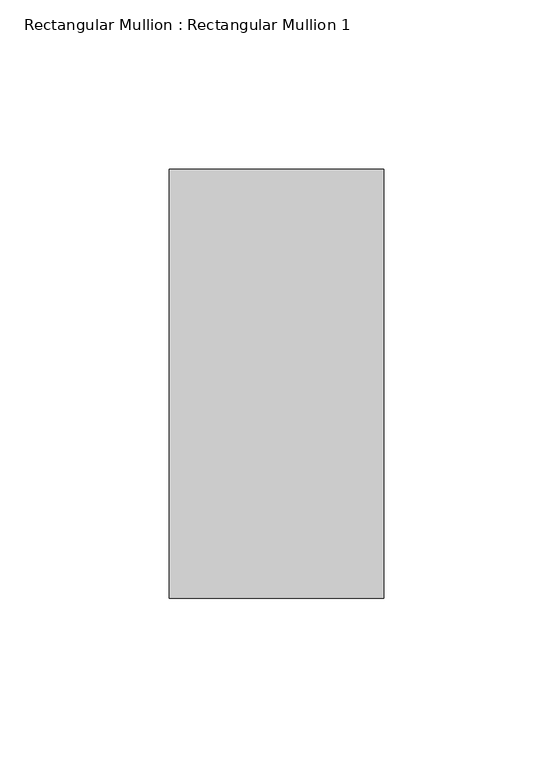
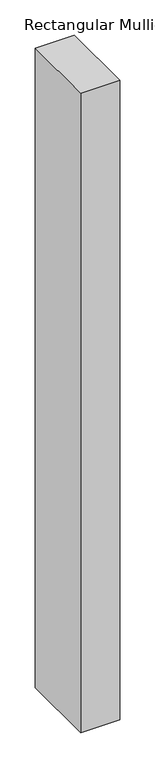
"""IFC4 building model written with IfcOpenShell, lengths in millimetres: member geometry, Rectangular Mullion : Rectangular Mullion 1."""

import ifcopenshell
import ifcopenshell.guid

model = None  # the IFC model being written
_history = None  # IfcOwnerHistory: only IFC2X3 demands one
_inside = {}  # id of a spatial element -> (the spatial element, [elements in it])
_under = {}  # id of a project, library or spatial element -> (it, [spatial elements below it])
_declared = {}  # id of a project -> (the project, [libraries it declares])
_typed = {}  # id of a type object -> (the type object, [elements of that type])
_made_of = {}  # id of a material, layer set ... -> (it, [elements and type objects made of it])


def new_model(schema):
    """Start an empty IFC model of exactly this schema.

    Asked for "IFC4X3", IfcOpenShell would pick the latest addendum, in which some entities
    have other attributes; the version numbers below select the first issue.
    IFC2X3 requires an IfcOwnerHistory on every rooted entity: one is made here for all.
    """
    global model, _history
    if schema == "IFC4X3":
        model = ifcopenshell.file(schema_version=(4, 3, 0, 0))
    else:
        model = ifcopenshell.file(schema=schema)
    _inside.clear()
    _under.clear()
    _declared.clear()
    _typed.clear()
    _made_of.clear()
    _history = None
    if model.schema == "IFC2X3":
        org = make("IfcOrganization", Name="unknown")
        user = make(
            "IfcPersonAndOrganization",
            ThePerson=make("IfcPerson", FamilyName="unknown"),
            TheOrganization=org,
        )
        app = make(
            "IfcApplication",
            ApplicationDeveloper=org,
            Version="unknown",
            ApplicationFullName="unknown",
            ApplicationIdentifier="unknown",
        )
        _history = make(
            "IfcOwnerHistory",
            OwningUser=user,
            OwningApplication=app,
            ChangeAction="ADDED",
            CreationDate=0,
        )
    return model


def make(cls, **values):
    """One entity of the class cls with the attributes given. An attribute that is None is left unset."""
    return model.create_entity(
        cls, **{name: value for name, value in values.items() if value is not None}
    )


def rooted(cls, **values):
    """An entity with a GlobalId (a new one), such as an element, a storey or a relation."""
    return make(cls, GlobalId=ifcopenshell.guid.new(), OwnerHistory=_history, **values)


def si_unit(unit_type, name, prefix=None):
    """IfcSIUnit, for example si_unit("LENGTHUNIT", "METRE", prefix="MILLI")."""
    return make("IfcSIUnit", UnitType=unit_type, Prefix=prefix, Name=name)


def assignment(units):
    """IfcUnitAssignment: the units of a project."""
    return None if units is None else make("IfcUnitAssignment", Units=units)


def point(xyz):
    """IfcCartesianPoint."""
    return None if xyz is None else make("IfcCartesianPoint", Coordinates=xyz)


def direction(xyz):
    """IfcDirection."""
    return None if xyz is None else make("IfcDirection", DirectionRatios=xyz)


def frame(location, z_axis=None, x_axis=None):
    """IfcAxis2Placement3D, a coordinate frame: its origin and axes. An axis left out is left unset."""
    return make(
        "IfcAxis2Placement3D",
        Location=point(location),
        Axis=direction(z_axis),
        RefDirection=direction(x_axis),
    )


def origin():
    """The frame at (0, 0, 0) with its axes left unset."""
    return frame((0.0, 0.0, 0.0))


def place(relative_to, where):
    """IfcLocalPlacement: puts the frame where relative to a parent placement (None: the world)."""
    return make(
        "IfcLocalPlacement", PlacementRelTo=relative_to, RelativePlacement=where
    )


def context(
    kind, dimensions, precision=None, world=None, true_north=None, identifier=None
):
    """IfcGeometricRepresentationContext, for example the 3D "Model" context."""
    return make(
        "IfcGeometricRepresentationContext",
        ContextIdentifier=identifier,
        ContextType=kind,
        CoordinateSpaceDimension=dimensions,
        Precision=precision,
        WorldCoordinateSystem=world,
        TrueNorth=true_north,
    )


def project(units=None, contexts=None):
    """IfcProject with its units and contexts."""
    return rooted(
        "IfcProject",
        Name="project",
        RepresentationContexts=contexts,
        UnitsInContext=assignment(units),
    )


def spatial(cls, under=None, at=None, **own):
    """A site, building, storey or space (cls), placed at a placement, below another one or the project."""
    s = rooted(cls, ObjectPlacement=at, **own)
    if under is not None:
        _under.setdefault(under.id(), (under, []))[1].append(s)
    return s


def polyline(points):
    """IfcPolyline through the points."""
    return make("IfcPolyline", Points=[point(p) for p in points])


def outline(outer, holes=None, kind="AREA"):
    """IfcArbitraryClosedProfileDef: a profile drawn as a closed curve; with holes, ...WithVoids."""
    if holes is None:
        return make("IfcArbitraryClosedProfileDef", ProfileType=kind, OuterCurve=outer)
    return make(
        "IfcArbitraryProfileDefWithVoids",
        ProfileType=kind,
        OuterCurve=outer,
        InnerCurves=holes,
    )


def extrude(swept, where, along, depth):
    """IfcExtrudedAreaSolid: the profile swept, set in the frame where, extruded along a direction by depth."""
    return make(
        "IfcExtrudedAreaSolid",
        SweptArea=swept,
        Position=where,
        ExtrudedDirection=direction(along),
        Depth=depth,
    )


def shape(context_of_items, identifier, shape_type, items):
    """IfcShapeRepresentation: the items that make up one representation, for example the "Body"."""
    return make(
        "IfcShapeRepresentation",
        ContextOfItems=context_of_items,
        RepresentationIdentifier=identifier,
        RepresentationType=shape_type,
        Items=items,
    )


def source(mapping_origin, context_of_items, identifier, shape_type, items):
    """IfcRepresentationMap: a shape defined once, which mapped items show again and again."""
    return make(
        "IfcRepresentationMap",
        MappingOrigin=mapping_origin,
        MappedRepresentation=shape(context_of_items, identifier, shape_type, items),
    )


def transform(
    local_origin,
    x_axis=None,
    y_axis=None,
    z_axis=None,
    scale=None,
    scale2=None,
    scale3=None,
    uniform=True,
):
    """IfcCartesianTransformationOperator3D, or its non-uniform kind. x_axis, y_axis, z_axis: its Axis1, 2, 3."""
    if uniform:
        return make(
            "IfcCartesianTransformationOperator3D",
            Axis1=direction(x_axis),
            Axis2=direction(y_axis),
            LocalOrigin=point(local_origin),
            Scale=scale,
            Axis3=direction(z_axis),
        )
    return make(
        "IfcCartesianTransformationOperator3DnonUniform",
        Axis1=direction(x_axis),
        Axis2=direction(y_axis),
        LocalOrigin=point(local_origin),
        Scale=scale,
        Axis3=direction(z_axis),
        Scale2=scale2,
        Scale3=scale3,
    )


def mapped(mapping_source, mapping_target):
    """IfcMappedItem: shows the shape of a source again, moved by a transform."""
    return make(
        "IfcMappedItem", MappingSource=mapping_source, MappingTarget=mapping_target
    )


def made_of(thing, what):
    """Note that an element or type object is made of a material, layer set ...; save() writes the relation."""
    if what is not None:
        _made_of.setdefault(what.id(), (what, []))[1].append(thing)
    return thing


def element(
    cls,
    number,
    at=None,
    inside=None,
    cuts=None,
    type_object=None,
    material=None,
    context=None,
    identifier="Body",
    shape_type=None,
    held_by="IfcProductDefinitionShape",
    body=None,
    shapes=None,
    **own,
):
    """One element of the class cls, such as IfcWall. Its Tag is "e" and its number.

    at: its placement. inside: the storey or other place that contains it. cuts: it is an
    opening in that element (IfcRelVoidsElement). A single representation is given by context,
    identifier, shape_type and body (its items); several are given by shapes. held_by: the class
    of the entity that holds the representations. save() writes the other relations.
    """
    e = rooted(cls, Tag="e%d" % number, ObjectPlacement=at, **own)
    if body is not None:
        shapes = [shape(context, identifier, shape_type, body)]
    if shapes is not None:
        e.Representation = make(held_by, Representations=shapes)
    if inside is not None:
        _inside.setdefault(inside.id(), (inside, []))[1].append(e)
    if cuts is not None:
        rooted(
            "IfcRelVoidsElement", RelatingBuildingElement=cuts, RelatedOpeningElement=e
        )
    if type_object is not None:
        _typed.setdefault(type_object.id(), (type_object, []))[1].append(e)
    return made_of(e, material)


def aggregate(whole, parts):
    """IfcRelAggregates: a whole, such as a stair, and the parts it consists of."""
    return rooted("IfcRelAggregates", RelatingObject=whole, RelatedObjects=parts)


def save(model, path):
    """Write the relations noted so far, then the file.

    IfcRelAggregates (storeys below a building ...), IfcRelContainedInSpatialStructure (elements
    in a storey), IfcRelDefinesByType, IfcRelAssociatesMaterial and IfcRelDeclares: one each for
    every whole, place, type object, material and project.
    """
    for whole, parts in _under.values():
        aggregate(whole, parts)
    for where, things in _inside.values():
        rooted(
            "IfcRelContainedInSpatialStructure",
            RelatedElements=things,
            RelatingStructure=where,
        )
    for kind, things in _typed.values():
        rooted("IfcRelDefinesByType", RelatedObjects=things, RelatingType=kind)
    for what, things in _made_of.values():
        rooted("IfcRelAssociatesMaterial", RelatedObjects=things, RelatingMaterial=what)
    for by, libraries in _declared.values():
        rooted("IfcRelDeclares", RelatingContext=by, RelatedDefinitions=libraries)
    model.write(path)


def rectangular_mullion_rectangular_mullion_1_cb608bd8(model_context):
    return source(origin(), model_context, "Body", "SweptSolid", [
        extrude(outline(polyline([(31.75, 63.5), (31.75, -63.5), (-31.75, -63.5), (-31.75, 63.5), (31.75, 63.5)])), frame((0.0, 0.0, -1100.4592009), z_axis=(0.0, 0.0, 1.0), x_axis=(1.0, 0.0, 0.0)), (0.0, 0.0, 1.0), 1100.4592009),
    ])


if __name__ == "__main__":
    model = new_model("IFC4")
    model_context = context("Model", 3, world=origin())
    ifc_project = project(units=[si_unit("LENGTHUNIT", "METRE", prefix="MILLI")], contexts=[model_context])
    site = spatial("IfcSite", under=ifc_project)
    building = spatial("IfcBuilding", under=site)
    placement = place(None, origin())
    rectangular_mullion_rectangular_mullion_1_shape = rectangular_mullion_rectangular_mullion_1_cb608bd8(model_context)
    element("IfcMember", 1, ObjectType="Rectangular Mullion : Rectangular Mullion 1", at=placement, inside=building, context=model_context, shape_type="MappedRepresentation", body=[
        mapped(rectangular_mullion_rectangular_mullion_1_shape, transform((0.0, 0.0, 0.0), x_axis=(1.0, 0.0, 0.0), y_axis=(0.0, 1.0, 0.0), z_axis=(0.0, 0.0, 1.0))),
    ])
    save(model, "model.ifc")
